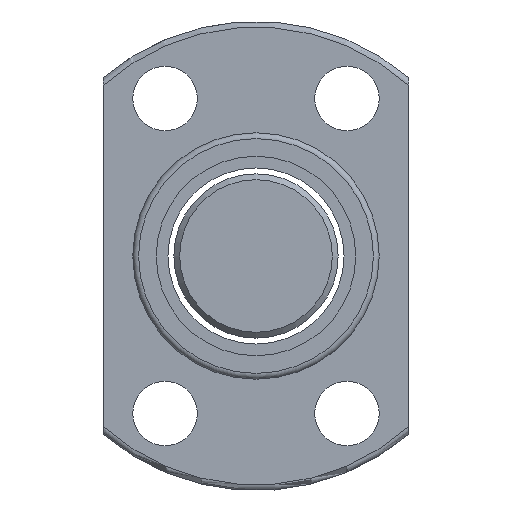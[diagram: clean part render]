
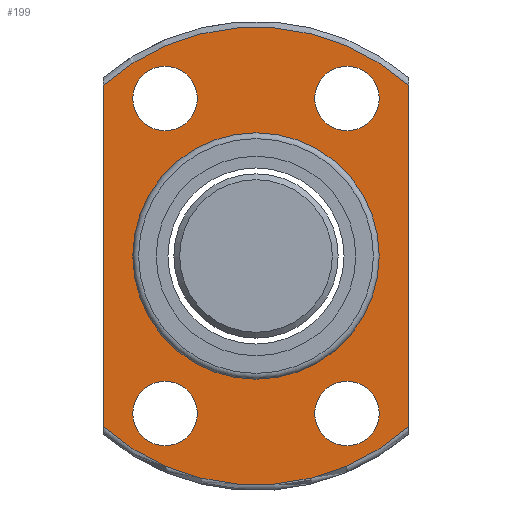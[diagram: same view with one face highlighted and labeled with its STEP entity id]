
A CAD part, left-side view. The second image highlights one B-rep face of the part: STEP entity #199.
In plain terms, the highlighted planar face has unit normal (-1, 0, 0).
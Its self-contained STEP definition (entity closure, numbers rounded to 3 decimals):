
#105=PLANE('',#588);
#118=FACE_BOUND('',#260,.T.);
#119=FACE_BOUND('',#261,.T.);
#120=FACE_BOUND('',#262,.T.);
#121=FACE_BOUND('',#263,.T.);
#122=FACE_BOUND('',#264,.T.);
#182=LINE('',#908,#190);
#183=LINE('',#909,#191);
#190=VECTOR('',#677,1.);
#191=VECTOR('',#678,1.);
#199=ADVANCED_FACE('',(#118,#119,#120,#121,#122,#239),#105,.F.);
#239=FACE_OUTER_BOUND('',#265,.T.);
#260=EDGE_LOOP('',(#374));
#261=EDGE_LOOP('',(#375));
#262=EDGE_LOOP('',(#376));
#263=EDGE_LOOP('',(#377));
#264=EDGE_LOOP('',(#378));
#265=EDGE_LOOP('',(#379,#380,#381,#382));
#326=CIRCLE('',#576,19.5);
#329=CIRCLE('',#582,10.5);
#330=CIRCLE('',#583,2.75);
#331=CIRCLE('',#584,2.75);
#332=CIRCLE('',#585,2.75);
#333=CIRCLE('',#586,2.75);
#334=CIRCLE('',#587,19.5);
#374=ORIENTED_EDGE('',*,*,#523,.T.);
#375=ORIENTED_EDGE('',*,*,#524,.T.);
#376=ORIENTED_EDGE('',*,*,#525,.T.);
#377=ORIENTED_EDGE('',*,*,#526,.T.);
#378=ORIENTED_EDGE('',*,*,#527,.T.);
#379=ORIENTED_EDGE('',*,*,#528,.F.);
#380=ORIENTED_EDGE('',*,*,#529,.T.);
#381=ORIENTED_EDGE('',*,*,#516,.F.);
#382=ORIENTED_EDGE('',*,*,#530,.F.);
#469=VERTEX_POINT('',#822);
#471=VERTEX_POINT('',#844);
#476=VERTEX_POINT('',#896);
#477=VERTEX_POINT('',#898);
#478=VERTEX_POINT('',#900);
#479=VERTEX_POINT('',#902);
#480=VERTEX_POINT('',#904);
#481=VERTEX_POINT('',#906);
#482=VERTEX_POINT('',#907);
#516=EDGE_CURVE('',#471,#469,#326,.T.);
#523=EDGE_CURVE('',#476,#476,#329,.T.);
#524=EDGE_CURVE('',#477,#477,#330,.T.);
#525=EDGE_CURVE('',#478,#478,#331,.T.);
#526=EDGE_CURVE('',#479,#479,#332,.T.);
#527=EDGE_CURVE('',#480,#480,#333,.T.);
#528=EDGE_CURVE('',#481,#482,#334,.T.);
#529=EDGE_CURVE('',#481,#469,#182,.T.);
#530=EDGE_CURVE('',#482,#471,#183,.T.);
#576=AXIS2_PLACEMENT_3D('',#845,#651,#652);
#582=AXIS2_PLACEMENT_3D('',#895,#665,#666);
#583=AXIS2_PLACEMENT_3D('',#897,#667,#668);
#584=AXIS2_PLACEMENT_3D('',#899,#669,#670);
#585=AXIS2_PLACEMENT_3D('',#901,#671,#672);
#586=AXIS2_PLACEMENT_3D('',#903,#673,#674);
#587=AXIS2_PLACEMENT_3D('',#905,#675,#676);
#588=AXIS2_PLACEMENT_3D('',#910,#679,#680);
#651=DIRECTION('',(1.,0.,0.));
#652=DIRECTION('',(0.,1.,0.));
#665=DIRECTION('',(1.,0.,0.));
#666=DIRECTION('',(0.,1.,0.));
#667=DIRECTION('',(1.,0.,0.));
#668=DIRECTION('',(0.,1.,0.));
#669=DIRECTION('',(1.,0.,0.));
#670=DIRECTION('',(0.,1.,0.));
#671=DIRECTION('',(1.,0.,0.));
#672=DIRECTION('',(0.,1.,0.));
#673=DIRECTION('',(1.,0.,0.));
#674=DIRECTION('',(0.,1.,0.));
#675=DIRECTION('',(1.,0.,0.));
#676=DIRECTION('',(0.,1.,0.));
#677=DIRECTION('',(0.,0.,-1.));
#678=DIRECTION('',(0.,0.,-1.));
#679=DIRECTION('',(1.,0.,0.));
#680=DIRECTION('',(0.,1.,0.));
#822=CARTESIAN_POINT('',(-21.,13.,-14.534));
#844=CARTESIAN_POINT('',(-21.,-13.,-14.534));
#845=CARTESIAN_POINT('',(-21.,0.,0.));
#895=CARTESIAN_POINT('',(-21.,0.,0.));
#896=CARTESIAN_POINT('',(-21.,10.5,0.));
#897=CARTESIAN_POINT('',(-21.,7.75,13.42));
#898=CARTESIAN_POINT('',(-21.,10.5,13.42));
#899=CARTESIAN_POINT('',(-21.,-7.75,13.42));
#900=CARTESIAN_POINT('',(-21.,-5.,13.42));
#901=CARTESIAN_POINT('',(-21.,-7.75,-13.42));
#902=CARTESIAN_POINT('',(-21.,-5.,-13.42));
#903=CARTESIAN_POINT('',(-21.,7.75,-13.42));
#904=CARTESIAN_POINT('',(-21.,10.5,-13.42));
#905=CARTESIAN_POINT('',(-21.,0.,0.));
#906=CARTESIAN_POINT('',(-21.,13.,14.534));
#907=CARTESIAN_POINT('',(-21.,-13.,14.534));
#908=CARTESIAN_POINT('',(-21.,13.,0.));
#909=CARTESIAN_POINT('',(-21.,-13.,0.));
#910=CARTESIAN_POINT('',(-21.,15.,0.));
